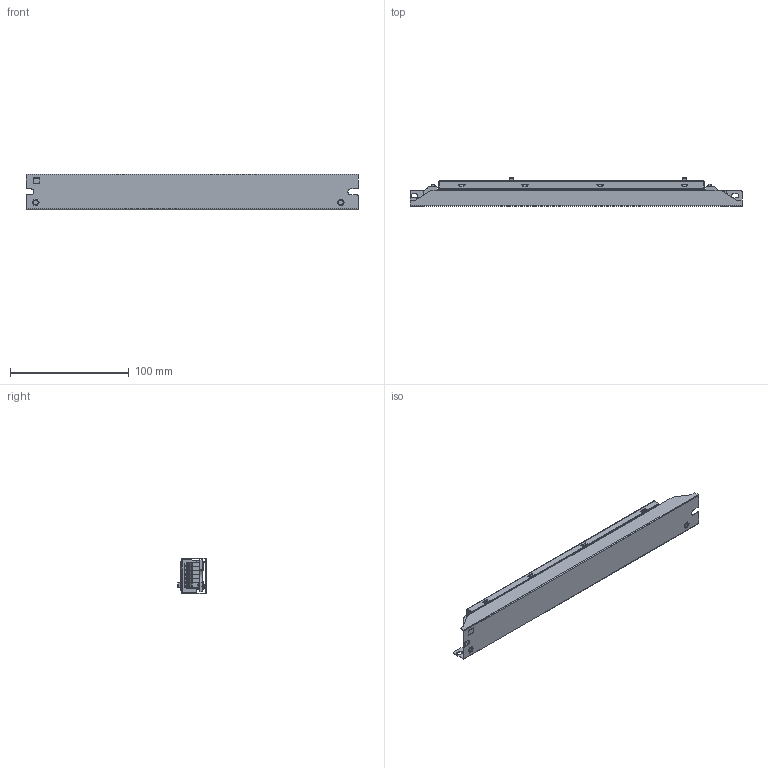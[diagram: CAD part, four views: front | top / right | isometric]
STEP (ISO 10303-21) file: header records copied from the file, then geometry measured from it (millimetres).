
FILE_DESCRIPTION((''),'2;1');
FILE_NAME('MAC050PD1400SA-INT-PCCT_250530_ASM','2026-05-12T10:15:40',('15365'),(''),'CREO PARAMETRIC BY PTC INC, 2025323','CREO PARAMETRIC BY PTC INC, 2025323','');
FILE_SCHEMA(('CONFIG_CONTROL_DESIGN','SHAPE_APPEARANCE_LAYERS_GROUPS'));
Length unit declared in the file: inch
Products named in the file (88): MAC046_BOTTOM_CEANZHUANG_3_1__4; MAC046_TOP_5-5_CHENGKONG_3; NEILUOWEN-M3_10_1_1_1_1_1_1_1; DUANZISHI_CASE_ASM_1_ASM_1_AS_3_ASM; BOARD_1_2_3_1_2_1_1_1_1; CIRCUITWORKS-1206_RESISTOR_1__7; R71_ASM_2_ASM_1_ASM_1_1_ASM_1_A_ASM; USER_LIBRARY-SOD-123_1_2_2_1__3; D10_ASM_3_ASM_1_ASM_1_1_ASM_1_A_ASM; CIRCUITWORKS-1206_RESISTOR_3__6; R56_1_ASM_2_ASM_1_ASM_1_1_ASM_3_ASM; CIRCUITWORKS-1206_RESISTOR_3__4; R55_1_2_ASM_2_ASM_1_ASM_1_1_A_2_ASM; CIRCUITWORKS-1206_RESISTOR_3_2_; R60_1_2_ASM_2_ASM_1_ASM_1_1_A_2_ASM; R41_1_ASM_2_ASM_1_ASM_1_1_ASM_3_ASM; R37_1_2_ASM_2_ASM_1_ASM_1_1_A_2_ASM; EXTRUDED-19502_2_1_1_1_1_1; 1540493888_ASM_2_ASM_1_ASM_1__2_ASM; Q6_1_2_ASM_1_ASM_1_ASM_1_1_AS_2_ASM; EXTRUDED-19717_2_1_1_1_1_1_2_1; 1540494704_ASM_2_ASM_1_ASM_1__3_ASM; Q2_ASM_4_ASM_2_ASM_1_1_ASM_1_AS_ASM; USER_LIBRARY-SOD-123_3_2_1_1_2_; ZD1_1_2_ASM_2_ASM_1_ASM_1_1_A_2_ASM; EXTRUDED-19960_2_1_1_1_1_1; 1540491304_ASM_2_ASM_1_ASM_1__2_ASM; F1_1_ASM_2_ASM_1_ASM_1_1_ASM_1__ASM; R25_1_2_3_ASM_1_ASM_1_ASM_1_1_2_ASM; C13_1_2_ASM_1_ASM_1_ASM_1_1_A_2_ASM; R12_1_2_ASM_1_ASM_1_ASM_1_1_A_2_ASM; R15_1_2_ASM_1_ASM_1_ASM_1_1_A_2_ASM; R21_1_ASM_1_ASM_1_ASM_1_1_ASM_3_ASM; EXTRUDED-19717_2_1_1_1_1; 1540494704_ASM_2_ASM_1_ASM_1__4_ASM; Q4_1_2_ASM_1_ASM_1_ASM_1_1_AS_2_ASM; EXTRUDED-19717_2_1_1_1_1_1_1; 1540494704_ASM_2_ASM_1_ASM_1_AS_ASM; Q5_1_2_ASM_1_ASM_1_ASM_1_1_AS_2_ASM; C22_1_ASM_2_ASM_1_ASM_1_1_ASM_3_ASM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
Assembly tree (106 placements, depth 10):
  MAC050PD1400SA-INT-PCCT_250530_ASM
    ASM0007_ASM_1_ASM_1_ASM
      MAC050PD1400UA-INT_PCCT_23070_3_ASM
        MAC030D0800UP-MA_230615_ASM_1_3_ASM
          MAC046_CASE_CEANZHUANG-CHENGK_3_ASM
            DUANZISHI_CASE_ASM_1_ASM_1_AS_3_ASM
              MAC046_BOTTOM_CEANZHUANG_3_1__4
              MAC046_TOP_5-5_CHENGKONG_3
              NEILUOWEN-M3_10_1_1_1_1_1_1_1  x2
            ASM0004_ASM_1_1_ASM_1_ASM_1_1_2_ASM
              PCB_1_2_3_ASM_1_ASM_2_ASM_1_1_2_ASM
                BOARD_1_2_3_1_2_1_1_1_1
                R71_ASM_2_ASM_1_ASM_1_1_ASM_1_A_ASM
                  CIRCUITWORKS-1206_RESISTOR_1__7
                D10_ASM_3_ASM_1_ASM_1_1_ASM_1_A_ASM
                  USER_LIBRARY-SOD-123_1_2_2_1__3
                R56_1_ASM_2_ASM_1_ASM_1_1_ASM_3_ASM
                  CIRCUITWORKS-1206_RESISTOR_3__6
                R55_1_2_ASM_2_ASM_1_ASM_1_1_A_2_ASM
                  CIRCUITWORKS-1206_RESISTOR_3__4
                R60_1_2_ASM_2_ASM_1_ASM_1_1_A_2_ASM
                  CIRCUITWORKS-1206_RESISTOR_3_2_
                R41_1_ASM_2_ASM_1_ASM_1_1_ASM_3_ASM
                  CIRCUITWORKS-1206_RESISTOR_3_2_
                R37_1_2_ASM_2_ASM_1_ASM_1_1_A_2_ASM
                  CIRCUITWORKS-1206_RESISTOR_3_2_
                Q6_1_2_ASM_1_ASM_1_ASM_1_1_AS_2_ASM
                  1540493888_ASM_2_ASM_1_ASM_1__2_ASM
                Q2_ASM_4_ASM_2_ASM_1_1_ASM_1_AS_ASM
                  1540494704_ASM_2_ASM_1_ASM_1__3_ASM
                ZD1_1_2_ASM_2_ASM_1_ASM_1_1_A_2_ASM
                  USER_LIBRARY-SOD-123_3_2_1_1_2_
                F1_1_ASM_2_ASM_1_ASM_1_1_ASM_1__ASM
                  1540491304_ASM_2_ASM_1_ASM_1__2_ASM
                R25_1_2_3_ASM_1_ASM_1_ASM_1_1_2_ASM
                  CIRCUITWORKS-1206_RESISTOR_3_2_
                C13_1_2_ASM_1_ASM_1_ASM_1_1_A_2_ASM
                  CIRCUITWORKS-1206_RESISTOR_3_2_
                R12_1_2_ASM_1_ASM_1_ASM_1_1_A_2_ASM
                  CIRCUITWORKS-1206_RESISTOR_3_2_
                R15_1_2_ASM_1_ASM_1_ASM_1_1_A_2_ASM
                  CIRCUITWORKS-1206_RESISTOR_3_2_
                R21_1_ASM_1_ASM_1_ASM_1_1_ASM_3_ASM
                  CIRCUITWORKS-1206_RESISTOR_3_2_
                Q4_1_2_ASM_1_ASM_1_ASM_1_1_AS_2_ASM
                  1540494704_ASM_2_ASM_1_ASM_1__4_ASM
                Q5_1_2_ASM_1_ASM_1_ASM_1_1_AS_2_ASM
                  1540494704_ASM_2_ASM_1_ASM_1_AS_ASM
                C22_1_ASM_2_ASM_1_ASM_1_1_ASM_3_ASM
                  CIRCUITWORKS-1206_RESISTOR_3_2_
                R39_1_ASM_2_ASM_1_ASM_1_1_ASM_3_ASM
                  CIRCUITWORKS-1206_RESISTOR_3_2_
                R14_1_2_ASM_1_ASM_1_ASM_1_1_A_2_ASM
                  CIRCUITWORKS-1206_RESISTOR_3_2_
                R23_1_2_ASM_1_ASM_1_ASM_1_1_A_2_ASM
                  CIRCUITWORKS-1206_RESISTOR_3_2_
                R42_ASM_3_ASM_1_ASM_1_1_ASM_1_A_ASM
                  CIRCUITWORKS-1206_RESISTOR_3_2_
                SW1_1_ASM_2_1_1_1_1_1
                R66_1_2_ASM_2_ASM_1_ASM_1_1_A_2_ASM
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Bounding box: 280 x 23.87 x 30.3 mm (x, y, z)
Volume: 33555 mm3; surface area: 91655.2 mm2
Topology: 58 solids, 66 shells, 2862 faces, 8279 edges, 5648 vertices
Faces by surface type: plane 1760, cylinder 865, bspline 118, torus 76, cone 25, sphere 16, extrusion 2
Entity records: 128300 total; most frequent: CARTESIAN_POINT 28030, ORIENTED_EDGE 14960, DIRECTION 13580, PRESENTATION_STYLE_ASSIGNMENT 8335, STYLED_ITEM 8001, EDGE_CURVE 7540, CURVE_STYLE 7234, VERTEX_POINT 5169
